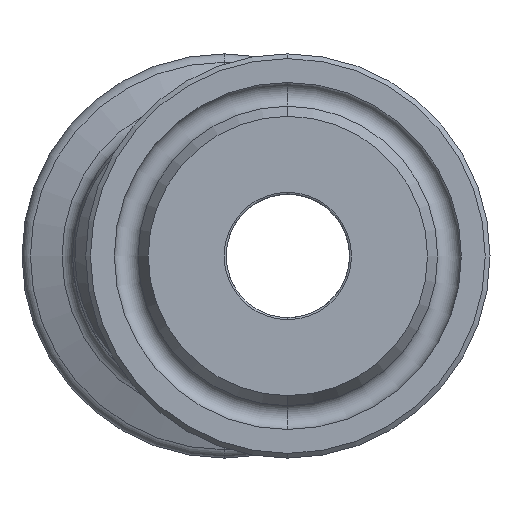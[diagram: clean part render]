
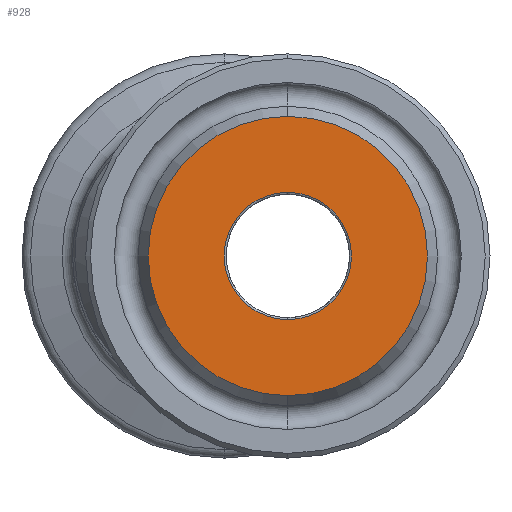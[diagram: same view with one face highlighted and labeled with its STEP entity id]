
A CAD part, left-side view. The second image highlights one B-rep face of the part: STEP entity #928.
In plain terms, the highlighted planar face has unit normal (-1, 0, 0).
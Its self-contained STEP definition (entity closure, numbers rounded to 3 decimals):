
#3 = CARTESIAN_POINT ( 'NONE',  ( 0.8, -4.002, 0. ) ) ;
#37 = ORIENTED_EDGE ( 'NONE', *, *, #73, .T. ) ;
#73 = EDGE_CURVE ( 'NONE', #1015, #2215, #1404, .T. ) ;
#191 = DIRECTION ( 'NONE',  ( 0., 0., -1. ) ) ;
#271 = CARTESIAN_POINT ( 'NONE',  ( 0.8, -4.001, 4.001 ) ) ;
#373 = VERTEX_POINT ( 'NONE', #1235 ) ;
#458 = CIRCLE ( 'NONE', #575, 8.772 ) ;
#527 = EDGE_CURVE ( 'NONE', #373, #545, #1957, .T. ) ;
#545 = VERTEX_POINT ( 'NONE', #770 ) ;
#554 = ORIENTED_EDGE ( 'NONE', *, *, #527, .F. ) ;
#575 = AXIS2_PLACEMENT_3D ( 'NONE', #831, #2086, #1010 ) ;
#658 = EDGE_LOOP ( 'NONE', ( #922, #554 ) ) ;
#770 = CARTESIAN_POINT ( 'NONE',  ( 0.8, -4.002, -8.772 ) ) ;
#831 = CARTESIAN_POINT ( 'NONE',  ( 0.8, -4.002, 0. ) ) ;
#885 = EDGE_LOOP ( 'NONE', ( #931, #37 ) ) ;
#922 = ORIENTED_EDGE ( 'NONE', *, *, #1058, .F. ) ;
#928 = ADVANCED_FACE ( 'NONE', ( #2073, #2015 ), #1779, .F. ) ;
#931 = ORIENTED_EDGE ( 'NONE', *, *, #2227, .T. ) ;
#1010 = DIRECTION ( 'NONE',  ( 0., 0., -1. ) ) ;
#1015 = VERTEX_POINT ( 'NONE', #271 ) ;
#1032 = AXIS2_PLACEMENT_3D ( 'NONE', #2054, #1072, #1684 ) ;
#1058 = EDGE_CURVE ( 'NONE', #545, #373, #458, .T. ) ;
#1072 = DIRECTION ( 'NONE',  ( 1., 0., 0. ) ) ;
#1197 = DIRECTION ( 'NONE',  ( 1., 0., 0. ) ) ;
#1235 = CARTESIAN_POINT ( 'NONE',  ( 0.8, -4.001, 8.772 ) ) ;
#1266 = DIRECTION ( 'NONE',  ( 1., 0., 0. ) ) ;
#1404 = CIRCLE ( 'NONE', #2315, 4.001 ) ;
#1599 = DIRECTION ( 'NONE',  ( 0., 0., -1. ) ) ;
#1621 = CARTESIAN_POINT ( 'NONE',  ( 0.8, -4.002, -4.001 ) ) ;
#1631 = DIRECTION ( 'NONE',  ( 1., 0., 0. ) ) ;
#1684 = DIRECTION ( 'NONE',  ( 0., 0., -1. ) ) ;
#1722 = DIRECTION ( 'NONE',  ( 0., 0., -1. ) ) ;
#1779 = PLANE ( 'NONE',  #2304 ) ;
#1884 = AXIS2_PLACEMENT_3D ( 'NONE', #3, #1266, #191 ) ;
#1957 = CIRCLE ( 'NONE', #1032, 8.772 ) ;
#1983 = CIRCLE ( 'NONE', #1884, 4.001 ) ;
#2015 = FACE_OUTER_BOUND ( 'NONE', #658, .T. ) ;
#2054 = CARTESIAN_POINT ( 'NONE',  ( 0.8, -4.002, 0. ) ) ;
#2073 = FACE_BOUND ( 'NONE', #885, .T. ) ;
#2086 = DIRECTION ( 'NONE',  ( 1., 0., 0. ) ) ;
#2148 = CARTESIAN_POINT ( 'NONE',  ( 0.8, 4.771, 0. ) ) ;
#2215 = VERTEX_POINT ( 'NONE', #1621 ) ;
#2227 = EDGE_CURVE ( 'NONE', #2215, #1015, #1983, .T. ) ;
#2270 = CARTESIAN_POINT ( 'NONE',  ( 0.8, -4.002, 0. ) ) ;
#2304 = AXIS2_PLACEMENT_3D ( 'NONE', #2148, #1631, #1599 ) ;
#2315 = AXIS2_PLACEMENT_3D ( 'NONE', #2270, #1197, #1722 ) ;
